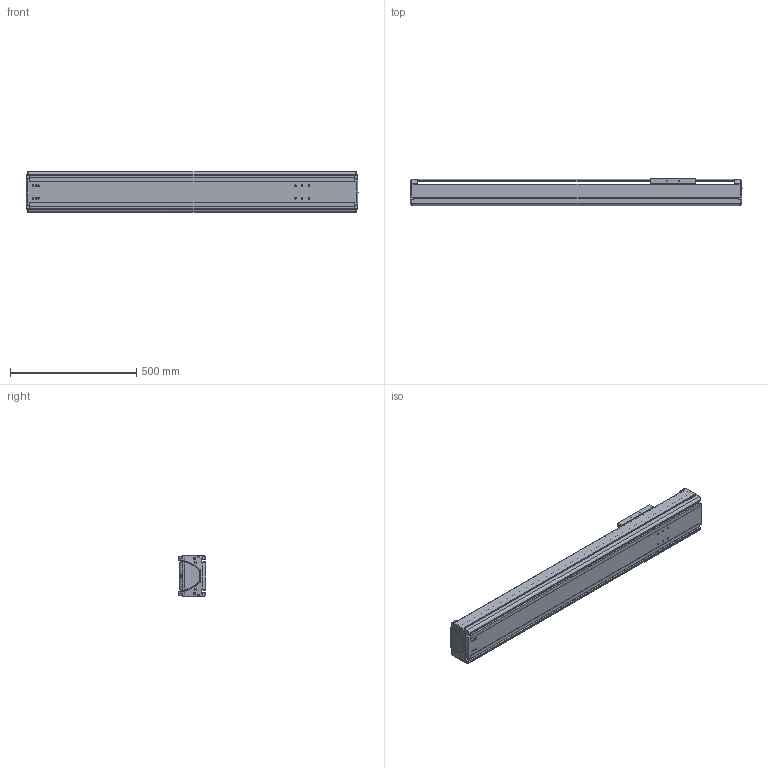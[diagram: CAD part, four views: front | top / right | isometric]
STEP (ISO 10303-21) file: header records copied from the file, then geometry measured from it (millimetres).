
FILE_DESCRIPTION((''),'2;1');
FILE_NAME('BE50G-ST-M_B-90_IGS_PRT','2017-06-18T',(' '),(''),'PRO/ENGINEER BY PARAMETRIC TECHNOLOGY CORPORATION, 2015030','PRO/ENGINEER BY PARAMETRIC TECHNOLOGY CORPORATION, 2015030','');
FILE_SCHEMA(('CONFIG_CONTROL_DESIGN'));
Length unit declared in the file: millimetre
Products named in the file (1): BE50G-ST-M_B-90_IGS_PRT
Bounding box: 1314.98 x 110 x 160 mm (x, y, z)
Volume: 5863920.1 mm3; surface area: 1999043.6 mm2
Topology: 2 solids, 85 shells, 1622 faces, 4302 edges, 2755 vertices
Faces by surface type: cylinder 702, plane 623, bspline 102, torus 87, cone 68, sphere 40
Entity records: 55758 total; most frequent: CARTESIAN_POINT 16007, ORIENTED_EDGE 8196, DIRECTION 8128, EDGE_CURVE 4264, AXIS2_PLACEMENT_3D 3028, VERTEX_POINT 2743, VECTOR 2072, LINE 2072
